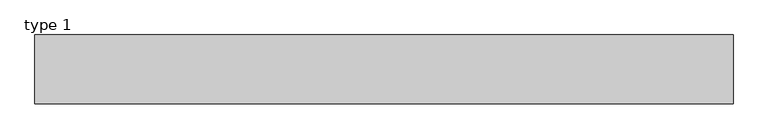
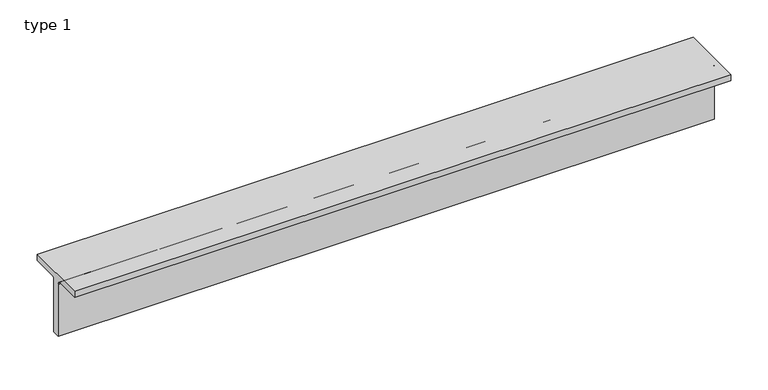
"""IFC4 building model written with IfcOpenShell, lengths in millimetres: beam geometry, M_WT Shapes : type 1."""

import ifcopenshell
import ifcopenshell.guid

model = None  # the IFC model being written
_history = None  # IfcOwnerHistory: only IFC2X3 demands one
_inside = {}  # id of a spatial element -> (the spatial element, [elements in it])
_under = {}  # id of a project, library or spatial element -> (it, [spatial elements below it])
_declared = {}  # id of a project -> (the project, [libraries it declares])
_typed = {}  # id of a type object -> (the type object, [elements of that type])
_made_of = {}  # id of a material, layer set ... -> (it, [elements and type objects made of it])


def new_model(schema):
    """Start an empty IFC model of exactly this schema.

    Asked for "IFC4X3", IfcOpenShell would pick the latest addendum, in which some entities
    have other attributes; the version numbers below select the first issue.
    IFC2X3 requires an IfcOwnerHistory on every rooted entity: one is made here for all.
    """
    global model, _history
    if schema == "IFC4X3":
        model = ifcopenshell.file(schema_version=(4, 3, 0, 0))
    else:
        model = ifcopenshell.file(schema=schema)
    _inside.clear()
    _under.clear()
    _declared.clear()
    _typed.clear()
    _made_of.clear()
    _history = None
    if model.schema == "IFC2X3":
        org = make("IfcOrganization", Name="unknown")
        user = make(
            "IfcPersonAndOrganization",
            ThePerson=make("IfcPerson", FamilyName="unknown"),
            TheOrganization=org,
        )
        app = make(
            "IfcApplication",
            ApplicationDeveloper=org,
            Version="unknown",
            ApplicationFullName="unknown",
            ApplicationIdentifier="unknown",
        )
        _history = make(
            "IfcOwnerHistory",
            OwningUser=user,
            OwningApplication=app,
            ChangeAction="ADDED",
            CreationDate=0,
        )
    return model


def make(cls, **values):
    """One entity of the class cls with the attributes given. An attribute that is None is left unset."""
    return model.create_entity(
        cls, **{name: value for name, value in values.items() if value is not None}
    )


def rooted(cls, **values):
    """An entity with a GlobalId (a new one), such as an element, a storey or a relation."""
    return make(cls, GlobalId=ifcopenshell.guid.new(), OwnerHistory=_history, **values)


def si_unit(unit_type, name, prefix=None):
    """IfcSIUnit, for example si_unit("LENGTHUNIT", "METRE", prefix="MILLI")."""
    return make("IfcSIUnit", UnitType=unit_type, Prefix=prefix, Name=name)


def assignment(units):
    """IfcUnitAssignment: the units of a project."""
    return None if units is None else make("IfcUnitAssignment", Units=units)


def point(xyz):
    """IfcCartesianPoint."""
    return None if xyz is None else make("IfcCartesianPoint", Coordinates=xyz)


def direction(xyz):
    """IfcDirection."""
    return None if xyz is None else make("IfcDirection", DirectionRatios=xyz)


def frame(location, z_axis=None, x_axis=None):
    """IfcAxis2Placement3D, a coordinate frame: its origin and axes. An axis left out is left unset."""
    return make(
        "IfcAxis2Placement3D",
        Location=point(location),
        Axis=direction(z_axis),
        RefDirection=direction(x_axis),
    )


def frame_2d(location, x_axis=None):
    """IfcAxis2Placement2D, a coordinate frame in the plane: its origin and x axis."""
    return make(
        "IfcAxis2Placement2D", Location=point(location), RefDirection=direction(x_axis)
    )


def origin():
    """The frame at (0, 0, 0) with its axes left unset."""
    return frame((0.0, 0.0, 0.0))


def place(relative_to, where):
    """IfcLocalPlacement: puts the frame where relative to a parent placement (None: the world)."""
    return make(
        "IfcLocalPlacement", PlacementRelTo=relative_to, RelativePlacement=where
    )


def context(
    kind, dimensions, precision=None, world=None, true_north=None, identifier=None
):
    """IfcGeometricRepresentationContext, for example the 3D "Model" context."""
    return make(
        "IfcGeometricRepresentationContext",
        ContextIdentifier=identifier,
        ContextType=kind,
        CoordinateSpaceDimension=dimensions,
        Precision=precision,
        WorldCoordinateSystem=world,
        TrueNorth=true_north,
    )


def project(units=None, contexts=None):
    """IfcProject with its units and contexts."""
    return rooted(
        "IfcProject",
        Name="project",
        RepresentationContexts=contexts,
        UnitsInContext=assignment(units),
    )


def spatial(cls, under=None, at=None, **own):
    """A site, building, storey or space (cls), placed at a placement, below another one or the project."""
    s = rooted(cls, ObjectPlacement=at, **own)
    if under is not None:
        _under.setdefault(under.id(), (under, []))[1].append(s)
    return s


def polyline(points):
    """IfcPolyline through the points."""
    return make("IfcPolyline", Points=[point(p) for p in points])


def circle_curve(where, radius):
    """IfcCircle in the frame where."""
    return make("IfcCircle", Position=where, Radius=radius)


def trimmed(basis, trim1, trim2, sense, master):
    """IfcTrimmedCurve: the piece of a basis curve between two trims."""
    return make(
        "IfcTrimmedCurve",
        BasisCurve=basis,
        Trim1=trim1,
        Trim2=trim2,
        SenseAgreement=sense,
        MasterRepresentation=master,
    )


def segment(curve, same_sense, transition):
    """IfcCompositeCurveSegment."""
    return make(
        "IfcCompositeCurveSegment",
        Transition=transition,
        SameSense=same_sense,
        ParentCurve=curve,
    )


def composite_curve(segments, self_intersect=None):
    """IfcCompositeCurve: segments joined end to end."""
    return make("IfcCompositeCurve", Segments=segments, SelfIntersect=self_intersect)


def outline(outer, holes=None, kind="AREA"):
    """IfcArbitraryClosedProfileDef: a profile drawn as a closed curve; with holes, ...WithVoids."""
    if holes is None:
        return make("IfcArbitraryClosedProfileDef", ProfileType=kind, OuterCurve=outer)
    return make(
        "IfcArbitraryProfileDefWithVoids",
        ProfileType=kind,
        OuterCurve=outer,
        InnerCurves=holes,
    )


def extrude(swept, where, along, depth):
    """IfcExtrudedAreaSolid: the profile swept, set in the frame where, extruded along a direction by depth."""
    return make(
        "IfcExtrudedAreaSolid",
        SweptArea=swept,
        Position=where,
        ExtrudedDirection=direction(along),
        Depth=depth,
    )


def shape(context_of_items, identifier, shape_type, items):
    """IfcShapeRepresentation: the items that make up one representation, for example the "Body"."""
    return make(
        "IfcShapeRepresentation",
        ContextOfItems=context_of_items,
        RepresentationIdentifier=identifier,
        RepresentationType=shape_type,
        Items=items,
    )


def source(mapping_origin, context_of_items, identifier, shape_type, items):
    """IfcRepresentationMap: a shape defined once, which mapped items show again and again."""
    return make(
        "IfcRepresentationMap",
        MappingOrigin=mapping_origin,
        MappedRepresentation=shape(context_of_items, identifier, shape_type, items),
    )


def transform(
    local_origin,
    x_axis=None,
    y_axis=None,
    z_axis=None,
    scale=None,
    scale2=None,
    scale3=None,
    uniform=True,
):
    """IfcCartesianTransformationOperator3D, or its non-uniform kind. x_axis, y_axis, z_axis: its Axis1, 2, 3."""
    if uniform:
        return make(
            "IfcCartesianTransformationOperator3D",
            Axis1=direction(x_axis),
            Axis2=direction(y_axis),
            LocalOrigin=point(local_origin),
            Scale=scale,
            Axis3=direction(z_axis),
        )
    return make(
        "IfcCartesianTransformationOperator3DnonUniform",
        Axis1=direction(x_axis),
        Axis2=direction(y_axis),
        LocalOrigin=point(local_origin),
        Scale=scale,
        Axis3=direction(z_axis),
        Scale2=scale2,
        Scale3=scale3,
    )


def mapped(mapping_source, mapping_target):
    """IfcMappedItem: shows the shape of a source again, moved by a transform."""
    return make(
        "IfcMappedItem", MappingSource=mapping_source, MappingTarget=mapping_target
    )


def made_of(thing, what):
    """Note that an element or type object is made of a material, layer set ...; save() writes the relation."""
    if what is not None:
        _made_of.setdefault(what.id(), (what, []))[1].append(thing)
    return thing


def element(
    cls,
    number,
    at=None,
    inside=None,
    cuts=None,
    type_object=None,
    material=None,
    context=None,
    identifier="Body",
    shape_type=None,
    held_by="IfcProductDefinitionShape",
    body=None,
    shapes=None,
    **own,
):
    """One element of the class cls, such as IfcWall. Its Tag is "e" and its number.

    at: its placement. inside: the storey or other place that contains it. cuts: it is an
    opening in that element (IfcRelVoidsElement). A single representation is given by context,
    identifier, shape_type and body (its items); several are given by shapes. held_by: the class
    of the entity that holds the representations. save() writes the other relations.
    """
    e = rooted(cls, Tag="e%d" % number, ObjectPlacement=at, **own)
    if body is not None:
        shapes = [shape(context, identifier, shape_type, body)]
    if shapes is not None:
        e.Representation = make(held_by, Representations=shapes)
    if inside is not None:
        _inside.setdefault(inside.id(), (inside, []))[1].append(e)
    if cuts is not None:
        rooted(
            "IfcRelVoidsElement", RelatingBuildingElement=cuts, RelatedOpeningElement=e
        )
    if type_object is not None:
        _typed.setdefault(type_object.id(), (type_object, []))[1].append(e)
    return made_of(e, material)


def aggregate(whole, parts):
    """IfcRelAggregates: a whole, such as a stair, and the parts it consists of."""
    return rooted("IfcRelAggregates", RelatingObject=whole, RelatedObjects=parts)


def save(model, path):
    """Write the relations noted so far, then the file.

    IfcRelAggregates (storeys below a building ...), IfcRelContainedInSpatialStructure (elements
    in a storey), IfcRelDefinesByType, IfcRelAssociatesMaterial and IfcRelDeclares: one each for
    every whole, place, type object, material and project.
    """
    for whole, parts in _under.values():
        aggregate(whole, parts)
    for where, things in _inside.values():
        rooted(
            "IfcRelContainedInSpatialStructure",
            RelatedElements=things,
            RelatingStructure=where,
        )
    for kind, things in _typed.values():
        rooted("IfcRelDefinesByType", RelatedObjects=things, RelatingType=kind)
    for what, things in _made_of.values():
        rooted("IfcRelAssociatesMaterial", RelatedObjects=things, RelatingMaterial=what)
    for by, libraries in _declared.values():
        rooted("IfcRelDeclares", RelatingContext=by, RelatedDefinitions=libraries)
    model.write(path)


def type_1_30184b28(model_context):
    return source(origin(), model_context, "Body", "SweptSolid", [
        extrude(outline(composite_curve([segment(polyline([(-50.0, -131.6), (50.0, -131.6), (50.0, -141.6), (10.95, -141.6)]), True, "CONTINUOUS"), segment(trimmed(circle_curve(frame_2d((10.95, -146.6)), 5.0), [point((10.95, -141.6))], [point((5.95, -146.6))], True, "CARTESIAN"), True, "CONTINUOUS"), segment(polyline([(5.95, -146.6), (5.95, -231.6), (-5.95, -231.6), (-5.95, -146.6)]), True, "CONTINUOUS"), segment(trimmed(circle_curve(frame_2d((-10.95, -146.6)), 5.0), [point((-5.95, -146.6))], [point((-10.95, -141.6))], True, "CARTESIAN"), True, "CONTINUOUS"), segment(polyline([(-10.95, -141.6), (-50.0, -141.6), (-50.0, -131.6)]), True, "CONTINUOUS")], self_intersect=False)), frame((-506.25, 0.0, 0.0), z_axis=(1.0, 0.0, 0.0), x_axis=(0.0, 1.0, 0.0)), (0.0, 0.0, 1.0), 1012.5),
    ])


if __name__ == "__main__":
    model = new_model("IFC4")
    model_context = context("Model", 3, world=origin())
    ifc_project = project(units=[si_unit("LENGTHUNIT", "METRE", prefix="MILLI")], contexts=[model_context])
    site = spatial("IfcSite", under=ifc_project)
    building = spatial("IfcBuilding", under=site)
    placement = place(None, origin())
    type_1_shape = type_1_30184b28(model_context)
    element("IfcBeam", 1, ObjectType="M_WT Shapes : type 1", at=placement, inside=building, context=model_context, shape_type="MappedRepresentation", body=[
        mapped(type_1_shape, transform((0.0, 0.0, 0.0), x_axis=(1.0, 0.0, 0.0), y_axis=(0.0, 1.0, 0.0), z_axis=(0.0, 0.0, 1.0))),
    ])
    save(model, "model.ifc")
